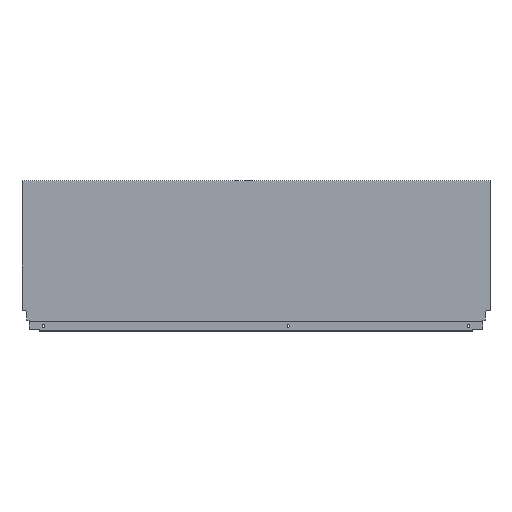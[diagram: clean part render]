
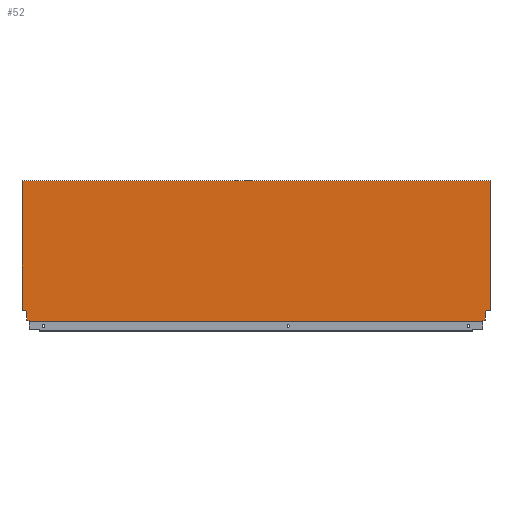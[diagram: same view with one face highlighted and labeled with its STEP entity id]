
A CAD part, top view. The second image highlights one B-rep face of the part: STEP entity #52.
In plain terms, the highlighted planar face has unit normal (0, 0, 1).
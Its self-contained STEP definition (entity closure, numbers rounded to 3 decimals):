
#52 = ADVANCED_FACE ( 'NONE', ( #531 ), #1369, .T. ) ;
#112 = EDGE_CURVE ( 'NONE', #1176, #1167, #519, .T. ) ;
#118 = EDGE_CURVE ( 'NONE', #1098, #1317, #512, .T. ) ;
#120 = EDGE_CURVE ( 'NONE', #1168, #1185, #577, .T. ) ;
#125 = EDGE_CURVE ( 'NONE', #1193, #1225, #502, .T. ) ;
#126 = EDGE_CURVE ( 'NONE', #1116, #1193, #499, .T. ) ;
#132 = EDGE_CURVE ( 'NONE', #1228, #1112, #486, .T. ) ;
#137 = EDGE_CURVE ( 'NONE', #1185, #1228, #481, .T. ) ;
#138 = EDGE_CURVE ( 'NONE', #1164, #1168, #478, .T. ) ;
#139 = EDGE_CURVE ( 'NONE', #1176, #1164, #482, .T. ) ;
#233 = EDGE_CURVE ( 'NONE', #1109, #1116, #1525, .T. ) ;
#235 = EDGE_CURVE ( 'NONE', #1225, #1167, #1521, .T. ) ;
#241 = EDGE_CURVE ( 'NONE', #1112, #1098, #1540, .T. ) ;
#243 = EDGE_CURVE ( 'NONE', #1235, #1109, #1519, .T. ) ;
#244 = EDGE_CURVE ( 'NONE', #1235, #1317, #1508, .T. ) ;
#290 = AXIS2_PLACEMENT_3D ( 'NONE', #1370, #1366, #1365 ) ;
#474 = VECTOR ( 'NONE', #1283, 1000. ) ;
#476 = VECTOR ( 'NONE', #1285, 1000. ) ;
#478 = LINE ( 'NONE', #1293, #476 ) ;
#480 = VECTOR ( 'NONE', #1287, 1000. ) ;
#481 = LINE ( 'NONE', #1288, #480 ) ;
#482 = LINE ( 'NONE', #1286, #474 ) ;
#485 = VECTOR ( 'NONE', #1301, 1000. ) ;
#486 = LINE ( 'NONE', #1302, #485 ) ;
#497 = VECTOR ( 'NONE', #1312, 1000. ) ;
#499 = LINE ( 'NONE', #1321, #497 ) ;
#502 = LINE ( 'NONE', #1315, #504 ) ;
#504 = VECTOR ( 'NONE', #1314, 1000. ) ;
#508 = VECTOR ( 'NONE', #1329, 1000. ) ;
#511 = VECTOR ( 'NONE', #1334, 1000. ) ;
#512 = LINE ( 'NONE', #1335, #511 ) ;
#519 = LINE ( 'NONE', #1364, #525 ) ;
#525 = VECTOR ( 'NONE', #1349, 1000. ) ;
#531 = FACE_OUTER_BOUND ( 'NONE', #582, .T. ) ;
#577 = LINE ( 'NONE', #1333, #508 ) ;
#582 = EDGE_LOOP ( 'NONE', ( #688, #689, #680, #611, #610, #638, #650, #648, #596, #593, #592, #696, #636, #637 ) ) ;
#592 = ORIENTED_EDGE ( 'NONE', *, *, #137, .F. ) ;
#593 = ORIENTED_EDGE ( 'NONE', *, *, #132, .F. ) ;
#596 = ORIENTED_EDGE ( 'NONE', *, *, #241, .F. ) ;
#610 = ORIENTED_EDGE ( 'NONE', *, *, #233, .F. ) ;
#611 = ORIENTED_EDGE ( 'NONE', *, *, #126, .F. ) ;
#636 = ORIENTED_EDGE ( 'NONE', *, *, #138, .F. ) ;
#637 = ORIENTED_EDGE ( 'NONE', *, *, #139, .F. ) ;
#638 = ORIENTED_EDGE ( 'NONE', *, *, #243, .F. ) ;
#648 = ORIENTED_EDGE ( 'NONE', *, *, #118, .F. ) ;
#650 = ORIENTED_EDGE ( 'NONE', *, *, #244, .T. ) ;
#680 = ORIENTED_EDGE ( 'NONE', *, *, #125, .F. ) ;
#688 = ORIENTED_EDGE ( 'NONE', *, *, #112, .T. ) ;
#689 = ORIENTED_EDGE ( 'NONE', *, *, #235, .F. ) ;
#696 = ORIENTED_EDGE ( 'NONE', *, *, #120, .F. ) ;
#887 = CARTESIAN_POINT ( 'NONE',  ( -13.004, 0., 8. ) ) ;
#895 = CARTESIAN_POINT ( 'NONE',  ( -853.996, 0., 8. ) ) ;
#899 = CARTESIAN_POINT ( 'NONE',  ( -8.9, 10.765, 8. ) ) ;
#900 = CARTESIAN_POINT ( 'NONE',  ( -859.94, 21.2, 8. ) ) ;
#916 = CARTESIAN_POINT ( 'NONE',  ( -858.1, 10.765, 8. ) ) ;
#920 = CARTESIAN_POINT ( 'NONE',  ( -7.06, 21.2, 8. ) ) ;
#925 = CARTESIAN_POINT ( 'NONE',  ( -867., 260.7, 8. ) ) ;
#930 = CARTESIAN_POINT ( 'NONE',  ( 0., 21.2, 8. ) ) ;
#931 = CARTESIAN_POINT ( 'NONE',  ( -867., 21.2, 8. ) ) ;
#932 = CARTESIAN_POINT ( 'NONE',  ( 0., 260.7, 8. ) ) ;
#955 = CARTESIAN_POINT ( 'NONE',  ( -858.1, 2.64, 8. ) ) ;
#956 = CARTESIAN_POINT ( 'NONE',  ( -853.996, 1.146, 8. ) ) ;
#958 = CARTESIAN_POINT ( 'NONE',  ( -13.004, 1.146, 8. ) ) ;
#962 = CARTESIAN_POINT ( 'NONE',  ( -8.9, 2.64, 8. ) ) ;
#963 = DIRECTION ( 'NONE',  ( 1., 0., 0. ) ) ;
#964 = CARTESIAN_POINT ( 'NONE',  ( -867., 0., 8. ) ) ;
#966 = DIRECTION ( 'NONE',  ( 0., 1., 0. ) ) ;
#968 = CARTESIAN_POINT ( 'NONE',  ( -853.996, 1.146, 8. ) ) ;
#974 = DIRECTION ( 'NONE',  ( -0.94, -0.342, 0. ) ) ;
#976 = CARTESIAN_POINT ( 'NONE',  ( -8.9, 2.64, 8. ) ) ;
#994 = DIRECTION ( 'NONE',  ( -1., 0., 0. ) ) ;
#995 = CARTESIAN_POINT ( 'NONE',  ( -872., 21.2, 8. ) ) ;
#1000 = DIRECTION ( 'NONE',  ( -0.94, 0.342, 0. ) ) ;
#1001 = CARTESIAN_POINT ( 'NONE',  ( -858.1, 2.64, 8. ) ) ;
#1098 = VERTEX_POINT ( 'NONE', #958 ) ;
#1109 = VERTEX_POINT ( 'NONE', #956 ) ;
#1112 = VERTEX_POINT ( 'NONE', #962 ) ;
#1116 = VERTEX_POINT ( 'NONE', #955 ) ;
#1164 = VERTEX_POINT ( 'NONE', #932 ) ;
#1167 = VERTEX_POINT ( 'NONE', #931 ) ;
#1168 = VERTEX_POINT ( 'NONE', #930 ) ;
#1176 = VERTEX_POINT ( 'NONE', #925 ) ;
#1185 = VERTEX_POINT ( 'NONE', #920 ) ;
#1193 = VERTEX_POINT ( 'NONE', #916 ) ;
#1225 = VERTEX_POINT ( 'NONE', #900 ) ;
#1228 = VERTEX_POINT ( 'NONE', #899 ) ;
#1235 = VERTEX_POINT ( 'NONE', #895 ) ;
#1283 = DIRECTION ( 'NONE',  ( 1., 0., 0. ) ) ;
#1285 = DIRECTION ( 'NONE',  ( 0., -1., 0. ) ) ;
#1286 = CARTESIAN_POINT ( 'NONE',  ( -867., 260.7, 8. ) ) ;
#1287 = DIRECTION ( 'NONE',  ( -0.174, -0.985, 0. ) ) ;
#1288 = CARTESIAN_POINT ( 'NONE',  ( -7.06, 21.2, 8. ) ) ;
#1293 = CARTESIAN_POINT ( 'NONE',  ( 0., 0., 8. ) ) ;
#1301 = DIRECTION ( 'NONE',  ( 0., -1., 0. ) ) ;
#1302 = CARTESIAN_POINT ( 'NONE',  ( -8.9, 10.765, 8. ) ) ;
#1312 = DIRECTION ( 'NONE',  ( 0., 1., 0. ) ) ;
#1314 = DIRECTION ( 'NONE',  ( -0.174, 0.985, 0. ) ) ;
#1315 = CARTESIAN_POINT ( 'NONE',  ( -859.94, 21.2, 8. ) ) ;
#1317 = VERTEX_POINT ( 'NONE', #887 ) ;
#1321 = CARTESIAN_POINT ( 'NONE',  ( -858.1, 10.765, 8. ) ) ;
#1329 = DIRECTION ( 'NONE',  ( -1., 0., 0. ) ) ;
#1333 = CARTESIAN_POINT ( 'NONE',  ( 0., 21.2, 8. ) ) ;
#1334 = DIRECTION ( 'NONE',  ( 0., -1., 0. ) ) ;
#1335 = CARTESIAN_POINT ( 'NONE',  ( -13.004, 1.146, 8. ) ) ;
#1349 = DIRECTION ( 'NONE',  ( 0., -1., 0. ) ) ;
#1364 = CARTESIAN_POINT ( 'NONE',  ( -867., 0., 8. ) ) ;
#1365 = DIRECTION ( 'NONE',  ( 1., 0., 0. ) ) ;
#1366 = DIRECTION ( 'NONE',  ( 0., 0., 1. ) ) ;
#1369 = PLANE ( 'NONE',  #290 ) ;
#1370 = CARTESIAN_POINT ( 'NONE',  ( -867., 0., 8. ) ) ;
#1507 = VECTOR ( 'NONE', #963, 1000. ) ;
#1508 = LINE ( 'NONE', #964, #1507 ) ;
#1511 = VECTOR ( 'NONE', #966, 1000. ) ;
#1517 = VECTOR ( 'NONE', #974, 1000. ) ;
#1519 = LINE ( 'NONE', #968, #1511 ) ;
#1520 = VECTOR ( 'NONE', #994, 1000. ) ;
#1521 = LINE ( 'NONE', #995, #1520 ) ;
#1524 = VECTOR ( 'NONE', #1000, 1000. ) ;
#1525 = LINE ( 'NONE', #1001, #1524 ) ;
#1540 = LINE ( 'NONE', #976, #1517 ) ;
